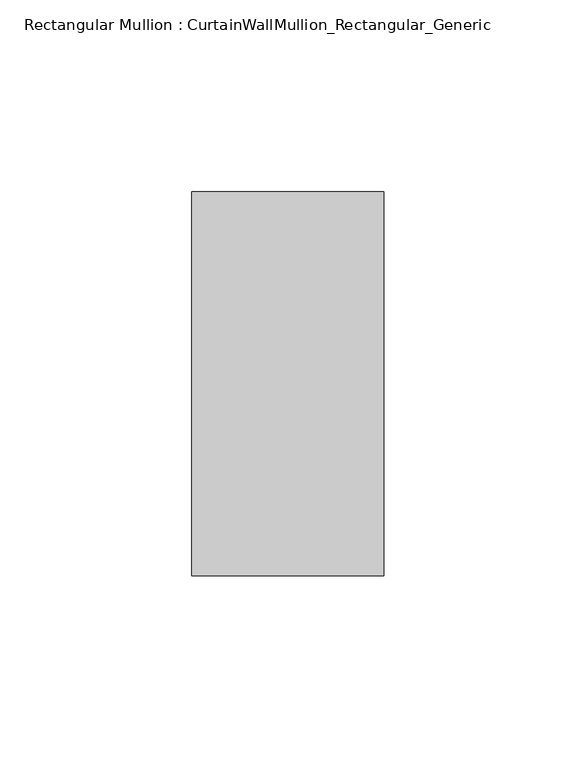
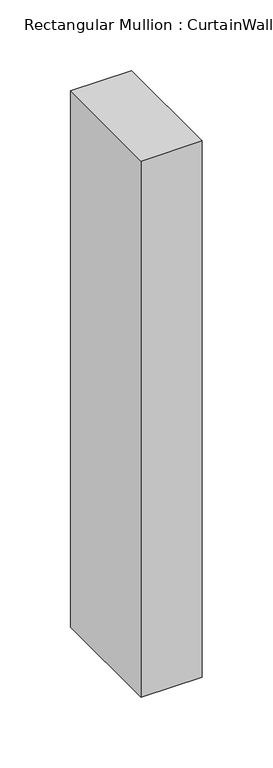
"""IFC4 building model written with IfcOpenShell, lengths in millimetres: member geometry, Rectangular Mullion : CurtainWallMullion_Rectangular_Generic."""

from ifc_helpers import new_model, si_unit, frame, origin, place, context, project, spatial, polyline, outline, extrude, source, transform, mapped, element, save


def rectangular_mullion_curtainwallmullion_rectangular_generic_8ae0e668(model_context):
    return source(origin(), model_context, "Body", "SweptSolid", [
        extrude(outline(polyline([(25.0, 50.0), (25.0, -50.0), (-25.0, -50.0), (-25.0, 50.0), (25.0, 50.0)])), frame((0.0, 0.0, -463.3), z_axis=(0.0, 0.0, 1.0), x_axis=(1.0, 0.0, 0.0)), (0.0, 0.0, 1.0), 463.3),
    ])


if __name__ == "__main__":
    model = new_model("IFC4")
    model_context = context("Model", 3, world=origin())
    ifc_project = project(units=[si_unit("LENGTHUNIT", "METRE", prefix="MILLI")], contexts=[model_context])
    site = spatial("IfcSite", under=ifc_project)
    building = spatial("IfcBuilding", under=site)
    placement = place(None, origin())
    rectangular_mullion_curtainwallmullion_rectangular_generic_shape = rectangular_mullion_curtainwallmullion_rectangular_generic_8ae0e668(model_context)
    element("IfcMember", 1, ObjectType="Rectangular Mullion : CurtainWallMullion_Rectangular_Generic", at=placement, inside=building, context=model_context, shape_type="MappedRepresentation", body=[
        mapped(rectangular_mullion_curtainwallmullion_rectangular_generic_shape, transform((0.0, 0.0, 0.0), x_axis=(1.0, 0.0, 0.0), y_axis=(0.0, 1.0, 0.0), z_axis=(0.0, 0.0, 1.0))),
    ])
    save(model, "model.ifc")
